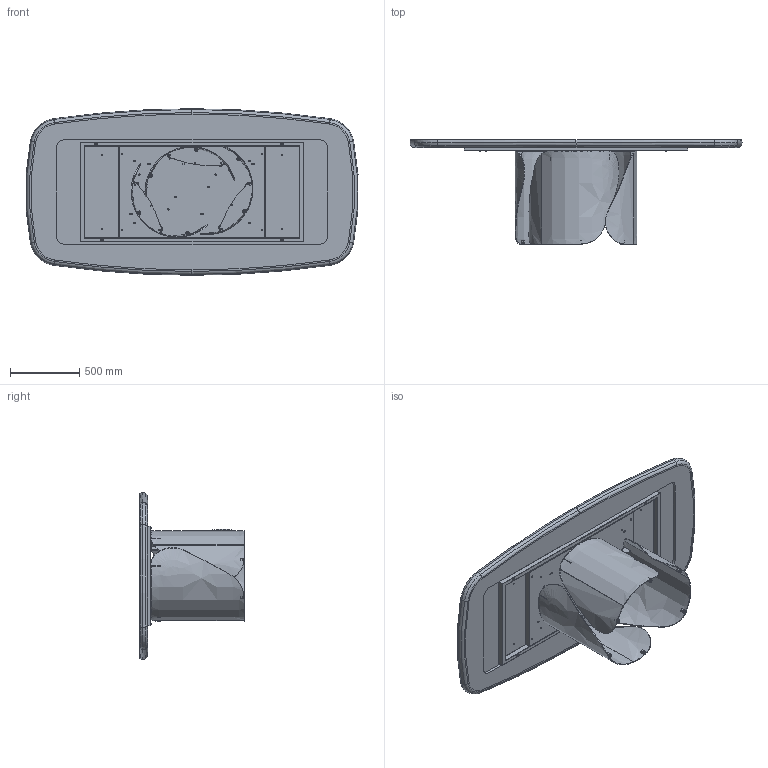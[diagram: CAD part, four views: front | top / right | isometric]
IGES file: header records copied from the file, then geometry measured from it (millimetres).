
Start section: SolidWorks IGES file using analytic representation for surfaces
Global section: file name: Y:\eforma\TECNICO\SOLIDWORKS\E-FORMA\1-TAVOLI\ONDA\08 modelli 3D web\ON42K_Onda_240x120_King.IGS; native system: SolidWorks 2022; preprocessor: SolidWorks 2022; author: eforma.tech; date: 240801.134906; units: millimetre
Bounding box: 2391.93 x 752 x 1200 mm (x, y, z)
Volume: 129128161.2 mm3; surface area: 17093159.8 mm2
Topology: 36 solids, 36 shells, 1200 faces, 2805 edges, 1712 vertices
Faces by surface type: revolution 698, plane 442, bspline 60
